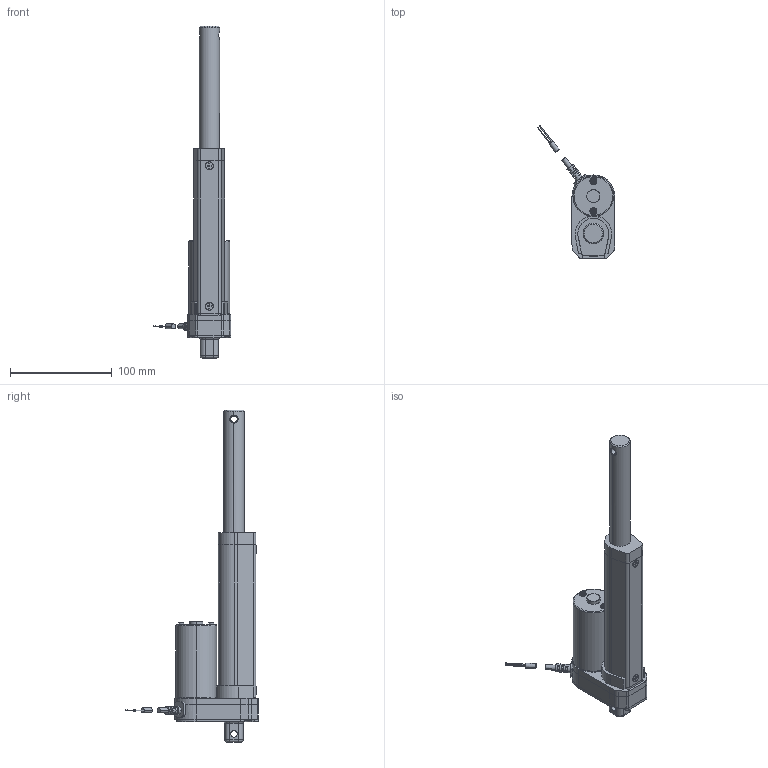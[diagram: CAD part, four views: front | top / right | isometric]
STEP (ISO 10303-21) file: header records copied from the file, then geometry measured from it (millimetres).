
FILE_DESCRIPTION (( 'STEP AP203' ), '1' );
FILE_NAME ('la3100e.step', '2020-08-06T14:22:58', ( '' ), ( '' ), 'SwSTEP 2.0', 'SolidWorks 2017', '' );
FILE_SCHEMA (( 'CONFIG_CONTROL_DESIGN' ));
Length unit declared in the file: millimetre
Products named in the file (1): la3100e
Bounding box: 76.07 x 130.5 x 326 mm (x, y, z)
Volume: 406629.6 mm3; surface area: 83571 mm2
Topology: 17 solids, 17 shells, 427 faces, 1050 edges, 686 vertices
Faces by surface type: plane 232, cylinder 159, torus 22, cone 10, bspline 4
Entity records: 15600 total; most frequent: CARTESIAN_POINT 5107, DIRECTION 2266, ORIENTED_EDGE 2100, EDGE_CURVE 1050, AXIS2_PLACEMENT_3D 812, VERTEX_POINT 686, LINE 642, VECTOR 642
